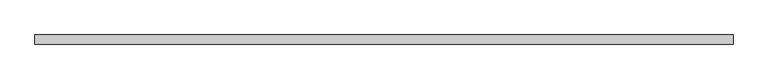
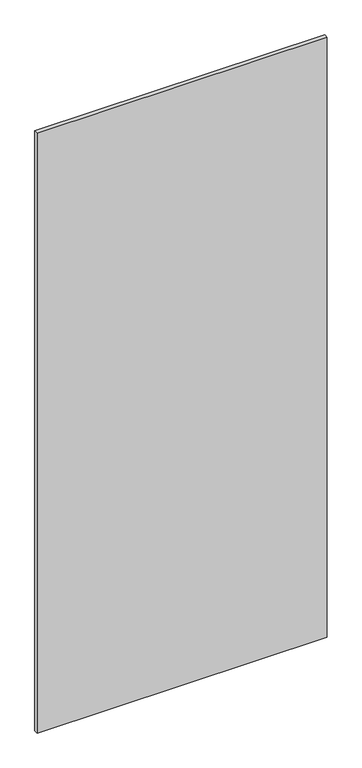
"""IFC4 building model written with IfcOpenShell, lengths in millimetres: plate geometry, 系统嵌板 : 玻璃."""

from ifc_helpers import new_model, si_unit, origin, origin_with_axes, place, context, project, spatial, polyline, outline, extrude, source, transform, mapped, element, save


def plate_0c29ff76(model_context):
    return source(origin(), model_context, "Body", "SweptSolid", [
        extrude(outline(polyline([(915.0, -12.5), (-915.0, -12.5), (-915.0, 12.5), (915.0, 12.5), (915.0, -12.5)])), origin_with_axes(), (0.0, 0.0, 1.0), 4000.0),
    ])


if __name__ == "__main__":
    model = new_model("IFC4")
    model_context = context("Model", 3, world=origin())
    ifc_project = project(units=[si_unit("LENGTHUNIT", "METRE", prefix="MILLI")], contexts=[model_context])
    site = spatial("IfcSite", under=ifc_project)
    building = spatial("IfcBuilding", under=site)
    placement = place(None, origin())
    plate_shape = plate_0c29ff76(model_context)
    element("IfcPlate", 1, ObjectType="系统嵌板 : 玻璃", at=placement, inside=building, context=model_context, shape_type="MappedRepresentation", body=[
        mapped(plate_shape, transform((0.0, 0.0, 0.0), x_axis=(1.0, 0.0, 0.0), y_axis=(0.0, 1.0, 0.0), z_axis=(0.0, 0.0, 1.0))),
    ])
    save(model, "model.ifc")
